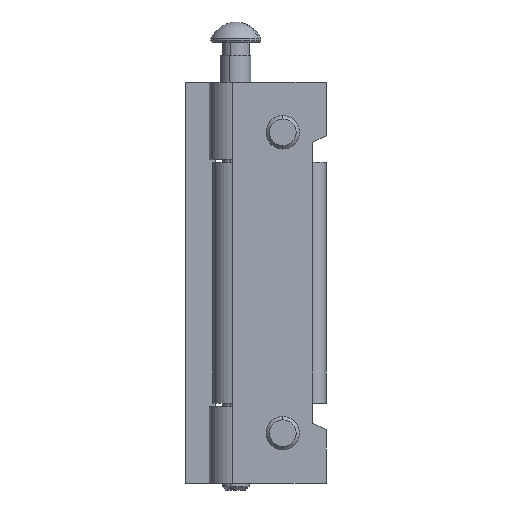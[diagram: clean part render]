
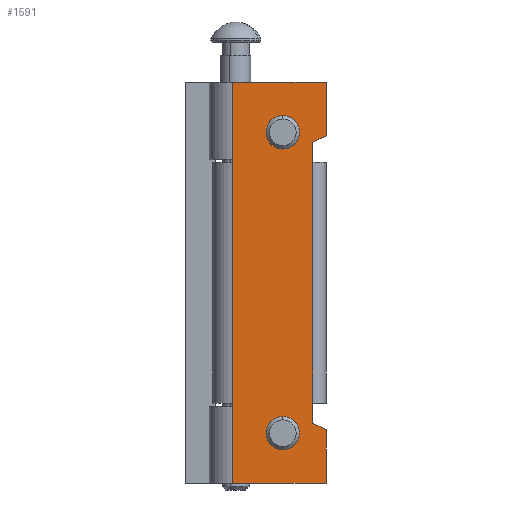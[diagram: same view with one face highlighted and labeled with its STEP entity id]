
A CAD part, front view. The second image highlights one B-rep face of the part: STEP entity #1591.
In plain terms, the highlighted planar face has unit normal (0, -1, 0).
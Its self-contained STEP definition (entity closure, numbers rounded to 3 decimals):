
#19 = LINE ( 'NONE', #681, #1411 ) ;
#44 = EDGE_CURVE ( 'NONE', #2270, #293, #2627, .T. ) ;
#72 = CARTESIAN_POINT ( 'NONE',  ( 11.5, -12.5, 0. ) ) ;
#99 = VERTEX_POINT ( 'NONE', #3330 ) ;
#167 = CARTESIAN_POINT ( 'NONE',  ( 7., -12.5, -22.5 ) ) ;
#210 = DIRECTION ( 'NONE',  ( 0., -1., 0. ) ) ;
#242 = CARTESIAN_POINT ( 'NONE',  ( -0.5, -12.5, -30. ) ) ;
#265 = EDGE_CURVE ( 'NONE', #2771, #553, #3346, .T. ) ;
#291 = ORIENTED_EDGE ( 'NONE', *, *, #2146, .F. ) ;
#293 = VERTEX_POINT ( 'NONE', #554 ) ;
#301 = LINE ( 'NONE', #2314, #1134 ) ;
#305 = VERTEX_POINT ( 'NONE', #1969 ) ;
#309 = FACE_BOUND ( 'NONE', #492, .T. ) ;
#314 = PLANE ( 'NONE',  #938 ) ;
#362 = CARTESIAN_POINT ( 'NONE',  ( 7., -12.5, 22.5 ) ) ;
#406 = DIRECTION ( 'NONE',  ( 0., 0., -1. ) ) ;
#435 = ORIENTED_EDGE ( 'NONE', *, *, #3085, .F. ) ;
#489 = FACE_OUTER_BOUND ( 'NONE', #2824, .T. ) ;
#492 = EDGE_LOOP ( 'NONE', ( #2456, #2302 ) ) ;
#518 = VECTOR ( 'NONE', #2517, 1000. ) ;
#537 = VERTEX_POINT ( 'NONE', #3277 ) ;
#552 = DIRECTION ( 'NONE',  ( -0.894, 0., -0.447 ) ) ;
#553 = VERTEX_POINT ( 'NONE', #1135 ) ;
#554 = CARTESIAN_POINT ( 'NONE',  ( 13.5, -12.5, 30. ) ) ;
#570 = VECTOR ( 'NONE', #2039, 1000. ) ;
#576 = ORIENTED_EDGE ( 'NONE', *, *, #44, .T. ) ;
#623 = VECTOR ( 'NONE', #552, 1000. ) ;
#681 = CARTESIAN_POINT ( 'NONE',  ( -0.5, -12.5, 18. ) ) ;
#740 = DIRECTION ( 'NONE',  ( 0., 0., -1. ) ) ;
#752 = CIRCLE ( 'NONE', #1593, 2.5 ) ;
#834 = LINE ( 'NONE', #3200, #2254 ) ;
#866 = EDGE_CURVE ( 'NONE', #3069, #99, #834, .T. ) ;
#902 = LINE ( 'NONE', #2125, #1485 ) ;
#934 = EDGE_CURVE ( 'NONE', #3637, #3409, #19, .T. ) ;
#938 = AXIS2_PLACEMENT_3D ( 'NONE', #3137, #2524, #406 ) ;
#974 = ORIENTED_EDGE ( 'NONE', *, *, #3144, .F. ) ;
#1042 = FACE_BOUND ( 'NONE', #2040, .T. ) ;
#1050 = CARTESIAN_POINT ( 'NONE',  ( 7., -12.5, -22.5 ) ) ;
#1104 = CARTESIAN_POINT ( 'NONE',  ( 11.5, -12.5, 0. ) ) ;
#1128 = CARTESIAN_POINT ( 'NONE',  ( 13.5, -12.5, 0. ) ) ;
#1134 = VECTOR ( 'NONE', #1190, 1000. ) ;
#1135 = CARTESIAN_POINT ( 'NONE',  ( 9.5, -12.5, 22.5 ) ) ;
#1190 = DIRECTION ( 'NONE',  ( 0.894, 0., -0.447 ) ) ;
#1215 = DIRECTION ( 'NONE',  ( 0., 0., -1. ) ) ;
#1220 = EDGE_CURVE ( 'NONE', #2270, #2190, #3634, .T. ) ;
#1255 = LINE ( 'NONE', #2506, #518 ) ;
#1269 = DIRECTION ( 'NONE',  ( 0., 0., -1. ) ) ;
#1336 = CARTESIAN_POINT ( 'NONE',  ( -6.1, -12.5, 12.2 ) ) ;
#1411 = VECTOR ( 'NONE', #740, 1000. ) ;
#1441 = EDGE_CURVE ( 'NONE', #553, #2771, #752, .T. ) ;
#1459 = ORIENTED_EDGE ( 'NONE', *, *, #2851, .F. ) ;
#1485 = VECTOR ( 'NONE', #1547, 1000. ) ;
#1547 = DIRECTION ( 'NONE',  ( 0., 0., -1. ) ) ;
#1590 = VERTEX_POINT ( 'NONE', #2639 ) ;
#1591 = ADVANCED_FACE ( 'NONE', ( #1042, #309, #489 ), #314, .T. ) ;
#1593 = AXIS2_PLACEMENT_3D ( 'NONE', #362, #210, #1602 ) ;
#1602 = DIRECTION ( 'NONE',  ( 1., 0., 0. ) ) ;
#1606 = CARTESIAN_POINT ( 'NONE',  ( 11.5, -12.5, 18. ) ) ;
#1621 = ORIENTED_EDGE ( 'NONE', *, *, #866, .F. ) ;
#1652 = AXIS2_PLACEMENT_3D ( 'NONE', #167, #1828, #3236 ) ;
#1658 = CIRCLE ( 'NONE', #1652, 2.5 ) ;
#1678 = ORIENTED_EDGE ( 'NONE', *, *, #2087, .F. ) ;
#1711 = VECTOR ( 'NONE', #2478, 1000. ) ;
#1760 = CARTESIAN_POINT ( 'NONE',  ( 4.5, -12.5, 22.5 ) ) ;
#1781 = EDGE_CURVE ( 'NONE', #305, #1812, #2114, .T. ) ;
#1791 = VECTOR ( 'NONE', #2291, 1000. ) ;
#1812 = VERTEX_POINT ( 'NONE', #1878 ) ;
#1828 = DIRECTION ( 'NONE',  ( 0., -1., 0. ) ) ;
#1878 = CARTESIAN_POINT ( 'NONE',  ( 4.5, -12.5, -22.5 ) ) ;
#1923 = AXIS2_PLACEMENT_3D ( 'NONE', #3501, #3535, #2948 ) ;
#1969 = CARTESIAN_POINT ( 'NONE',  ( 9.5, -12.5, -22.5 ) ) ;
#1982 = DIRECTION ( 'NONE',  ( 1., 0., 0. ) ) ;
#2039 = DIRECTION ( 'NONE',  ( 0., 0., -1. ) ) ;
#2040 = EDGE_LOOP ( 'NONE', ( #2161, #435 ) ) ;
#2068 = LINE ( 'NONE', #72, #570 ) ;
#2087 = EDGE_CURVE ( 'NONE', #99, #1590, #2068, .T. ) ;
#2108 = VERTEX_POINT ( 'NONE', #3463 ) ;
#2110 = VECTOR ( 'NONE', #1215, 1000. ) ;
#2114 = CIRCLE ( 'NONE', #3212, 2.5 ) ;
#2125 = CARTESIAN_POINT ( 'NONE',  ( 13.5, -12.5, 0. ) ) ;
#2146 = EDGE_CURVE ( 'NONE', #1590, #2108, #301, .T. ) ;
#2161 = ORIENTED_EDGE ( 'NONE', *, *, #1781, .F. ) ;
#2190 = VERTEX_POINT ( 'NONE', #3470 ) ;
#2200 = LINE ( 'NONE', #1104, #2110 ) ;
#2254 = VECTOR ( 'NONE', #1269, 1000. ) ;
#2268 = DIRECTION ( 'NONE',  ( 0., -1., 0. ) ) ;
#2270 = VERTEX_POINT ( 'NONE', #3049 ) ;
#2291 = DIRECTION ( 'NONE',  ( 0., 0., 1. ) ) ;
#2302 = ORIENTED_EDGE ( 'NONE', *, *, #265, .F. ) ;
#2314 = CARTESIAN_POINT ( 'NONE',  ( -6.1, -12.5, -12.2 ) ) ;
#2456 = ORIENTED_EDGE ( 'NONE', *, *, #1441, .F. ) ;
#2474 = CARTESIAN_POINT ( 'NONE',  ( -0.5, -12.5, 30. ) ) ;
#2478 = DIRECTION ( 'NONE',  ( 1., 0., 0. ) ) ;
#2505 = ORIENTED_EDGE ( 'NONE', *, *, #934, .T. ) ;
#2506 = CARTESIAN_POINT ( 'NONE',  ( 0., -12.5, -30. ) ) ;
#2517 = DIRECTION ( 'NONE',  ( 1., 0., 0. ) ) ;
#2519 = ORIENTED_EDGE ( 'NONE', *, *, #1220, .F. ) ;
#2524 = DIRECTION ( 'NONE',  ( 0., -1., 0. ) ) ;
#2627 = LINE ( 'NONE', #1128, #1791 ) ;
#2639 = CARTESIAN_POINT ( 'NONE',  ( 11.5, -12.5, -21. ) ) ;
#2702 = ORIENTED_EDGE ( 'NONE', *, *, #2944, .F. ) ;
#2771 = VERTEX_POINT ( 'NONE', #1760 ) ;
#2780 = ORIENTED_EDGE ( 'NONE', *, *, #3502, .T. ) ;
#2782 = CARTESIAN_POINT ( 'NONE',  ( 0., -12.5, 30. ) ) ;
#2824 = EDGE_LOOP ( 'NONE', ( #2505, #2780, #974, #291, #1678, #1621, #2702, #2519, #576, #1459 ) ) ;
#2851 = EDGE_CURVE ( 'NONE', #3637, #293, #3193, .T. ) ;
#2944 = EDGE_CURVE ( 'NONE', #2190, #3069, #2200, .T. ) ;
#2948 = DIRECTION ( 'NONE',  ( 1., 0., 0. ) ) ;
#3049 = CARTESIAN_POINT ( 'NONE',  ( 13.5, -12.5, 22. ) ) ;
#3069 = VERTEX_POINT ( 'NONE', #1606 ) ;
#3085 = EDGE_CURVE ( 'NONE', #1812, #305, #1658, .T. ) ;
#3137 = CARTESIAN_POINT ( 'NONE',  ( 13.5, -12.5, 18. ) ) ;
#3144 = EDGE_CURVE ( 'NONE', #2108, #537, #902, .T. ) ;
#3193 = LINE ( 'NONE', #2782, #1711 ) ;
#3200 = CARTESIAN_POINT ( 'NONE',  ( 11.5, -12.5, 18. ) ) ;
#3212 = AXIS2_PLACEMENT_3D ( 'NONE', #1050, #2268, #1982 ) ;
#3236 = DIRECTION ( 'NONE',  ( 1., 0., 0. ) ) ;
#3277 = CARTESIAN_POINT ( 'NONE',  ( 13.5, -12.5, -30. ) ) ;
#3330 = CARTESIAN_POINT ( 'NONE',  ( 11.5, -12.5, -18. ) ) ;
#3346 = CIRCLE ( 'NONE', #1923, 2.5 ) ;
#3409 = VERTEX_POINT ( 'NONE', #242 ) ;
#3463 = CARTESIAN_POINT ( 'NONE',  ( 13.5, -12.5, -22. ) ) ;
#3470 = CARTESIAN_POINT ( 'NONE',  ( 11.5, -12.5, 21. ) ) ;
#3501 = CARTESIAN_POINT ( 'NONE',  ( 7., -12.5, 22.5 ) ) ;
#3502 = EDGE_CURVE ( 'NONE', #3409, #537, #1255, .T. ) ;
#3535 = DIRECTION ( 'NONE',  ( 0., -1., 0. ) ) ;
#3634 = LINE ( 'NONE', #1336, #623 ) ;
#3637 = VERTEX_POINT ( 'NONE', #2474 ) ;
